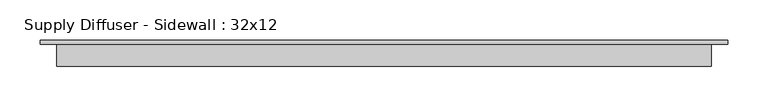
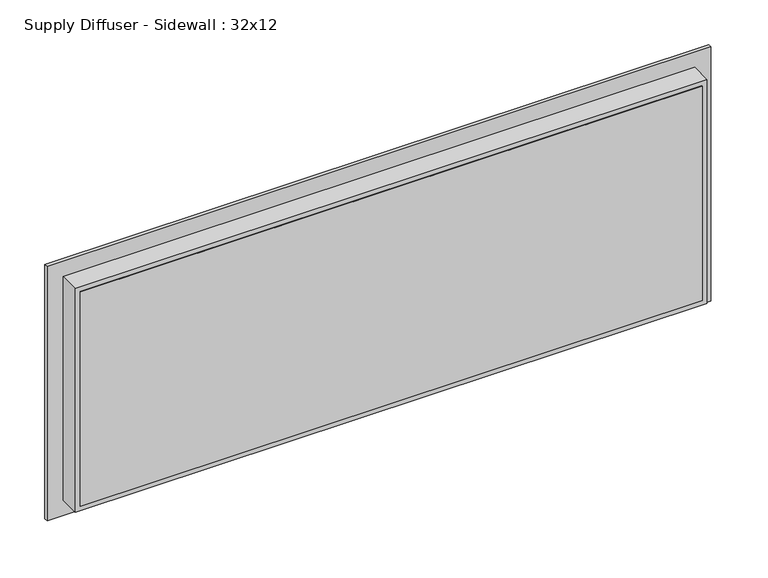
"""IFC4 building model written with IfcOpenShell, lengths in millimetres: air terminal geometry, Supply Diffuser - Sidewall : 32x12."""

from ifc_helpers import new_model, si_unit, origin, place, context, project, spatial, faceted_brep, source, transform, mapped, element, save


def supply_diffuser_sidewall_32x12_ee748e93(model_context):
    return source(origin(), model_context, "Body", "Brep", [
        faceted_brep([(427.0375, 4.7625, 173.0375), (427.0375, 4.7625, -173.0375), (-427.0375, 4.7625, -173.0375), (-427.0375, 4.7625, 173.0375), (427.0375, 0.0, 173.0375), (-427.0375, 0.0, 173.0375), (-427.0375, 0.0, -173.0375), (427.0375, 0.0, -173.0375), (-406.4, 0.0, 152.4), (406.4, 0.0, 152.4), (406.4, 0.0, -152.4), (-406.4, 0.0, -152.4), (-406.4, -27.384375, 152.4), (-406.4, -27.384375, -152.4), (406.4, -27.384375, -152.4), (406.4, -27.384375, 152.4), (-400.05, -27.384375, 146.05), (400.05, -27.384375, 146.05), (400.05, -27.384375, -146.05), (-400.05, -27.384375, -146.05), (-400.05, -27.78125, 146.05), (-400.05, -27.78125, -146.05), (400.05, -27.78125, -146.05), (400.05, -27.78125, 146.05)], [[[0, 1, 2, 3]], [[4, 5, 6, 7], [8, 9, 10, 11]], [[3, 5, 4, 0]], [[2, 6, 5, 3]], [[1, 7, 6, 2]], [[0, 4, 7, 1]], [[12, 13, 14, 15], [16, 17, 18, 19]], [[12, 8, 11, 13]], [[13, 11, 10, 14]], [[14, 10, 9, 15]], [[15, 9, 8, 12]], [[20, 21, 22, 23]], [[20, 16, 19, 21]], [[21, 19, 18, 22]], [[22, 18, 17, 23]], [[23, 17, 16, 20]]]),
    ])


if __name__ == "__main__":
    model = new_model("IFC4")
    model_context = context("Model", 3, world=origin())
    ifc_project = project(units=[si_unit("LENGTHUNIT", "METRE", prefix="MILLI")], contexts=[model_context])
    site = spatial("IfcSite", under=ifc_project)
    building = spatial("IfcBuilding", under=site)
    placement = place(None, origin())
    supply_diffuser_sidewall_32x12_shape = supply_diffuser_sidewall_32x12_ee748e93(model_context)
    element("IfcAirTerminal", 1, ObjectType="Supply Diffuser - Sidewall : 32x12", at=placement, inside=building, context=model_context, shape_type="MappedRepresentation", body=[
        mapped(supply_diffuser_sidewall_32x12_shape, transform((0.0, 0.0, 0.0), x_axis=(1.0, 0.0, 0.0), y_axis=(0.0, 1.0, 0.0), z_axis=(0.0, 0.0, 1.0))),
    ])
    save(model, "model.ifc")
